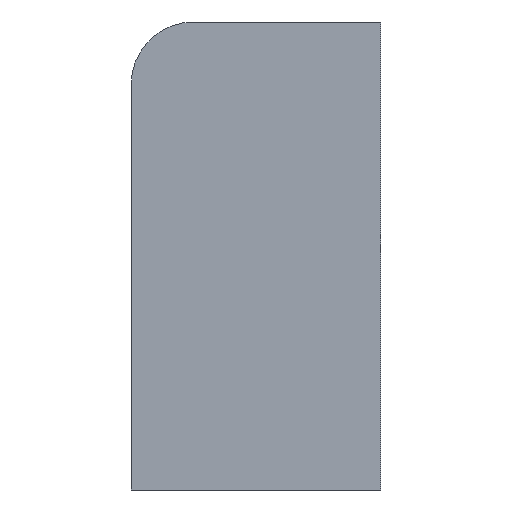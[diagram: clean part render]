
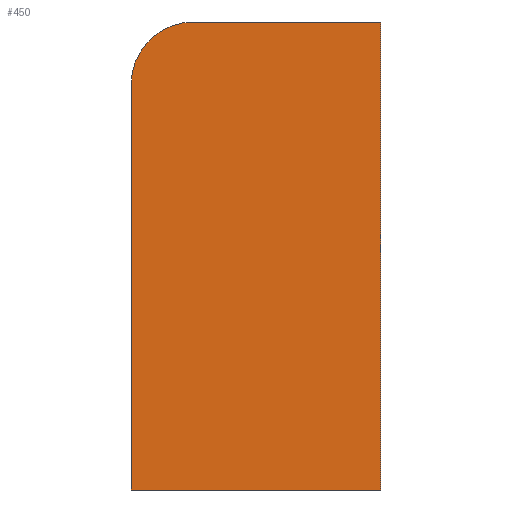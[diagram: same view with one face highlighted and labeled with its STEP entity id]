
A CAD part, left-side view. The second image highlights one B-rep face of the part: STEP entity #450.
In plain terms, the highlighted planar face has unit normal (-1, 0, 0).
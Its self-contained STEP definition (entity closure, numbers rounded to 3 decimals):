
#233=CARTESIAN_POINT('Vertex',(0.,0.,150.)) ;
#236=CARTESIAN_POINT('Line Origine',(0.,0.,75.)) ;
#240=CARTESIAN_POINT('Vertex',(0.,0.,0.)) ;
#329=CARTESIAN_POINT('Vertex',(0.,80.,0.)) ;
#332=CARTESIAN_POINT('Line Origine',(0.,80.,65.)) ;
#336=CARTESIAN_POINT('Vertex',(0.,80.,130.)) ;
#396=CARTESIAN_POINT('Line Origine',(0.,40.,0.)) ;
#414=CARTESIAN_POINT('Axis2P3D Location',(0.,60.,130.)) ;
#418=CARTESIAN_POINT('Vertex',(0.,60.,150.)) ;
#433=CARTESIAN_POINT('Axis2P3D Location',(0.,80.,0.)) ;
#438=CARTESIAN_POINT('Line Origine',(0.,30.,150.)) ;
#237=DIRECTION('Vector Direction',(0.,0.,1.)) ;
#333=DIRECTION('Vector Direction',(0.,0.,1.)) ;
#397=DIRECTION('Vector Direction',(0.,-1.,0.)) ;
#415=DIRECTION('Axis2P3D Direction',(-1.,0.,0.)) ;
#434=DIRECTION('Axis2P3D Direction',(-1.,0.,0.)) ;
#435=DIRECTION('Axis2P3D XDirection',(0.,-1.,0.)) ;
#439=DIRECTION('Vector Direction',(0.,1.,0.)) ;
#416=AXIS2_PLACEMENT_3D('Circle Axis2P3D',#414,#415,$) ;
#436=AXIS2_PLACEMENT_3D('Plane Axis2P3D',#433,#434,#435) ;
#444=ORIENTED_EDGE('',*,*,#242,.T.) ;
#445=ORIENTED_EDGE('',*,*,#442,.T.) ;
#446=ORIENTED_EDGE('',*,*,#420,.T.) ;
#447=ORIENTED_EDGE('',*,*,#338,.F.) ;
#448=ORIENTED_EDGE('',*,*,#400,.T.) ;
#238=VECTOR('Line Direction',#237,1.) ;
#334=VECTOR('Line Direction',#333,1.) ;
#398=VECTOR('Line Direction',#397,1.) ;
#440=VECTOR('Line Direction',#439,1.) ;
#450=ADVANCED_FACE('PartBody',(#449),#437,.T.) ;
#417=CIRCLE('generated circle',#416,20.) ;
#242=EDGE_CURVE('',#241,#234,#239,.T.) ;
#338=EDGE_CURVE('',#330,#337,#335,.T.) ;
#400=EDGE_CURVE('',#330,#241,#399,.T.) ;
#420=EDGE_CURVE('',#419,#337,#417,.T.) ;
#442=EDGE_CURVE('',#234,#419,#441,.T.) ;
#443=EDGE_LOOP('',(#444,#445,#446,#447,#448)) ;
#449=FACE_OUTER_BOUND('',#443,.T.) ;
#239=LINE('Line',#236,#238) ;
#335=LINE('Line',#332,#334) ;
#399=LINE('Line',#396,#398) ;
#441=LINE('Line',#438,#440) ;
#437=PLANE('',#436) ;
#234=VERTEX_POINT('',#233) ;
#241=VERTEX_POINT('',#240) ;
#330=VERTEX_POINT('',#329) ;
#337=VERTEX_POINT('',#336) ;
#419=VERTEX_POINT('',#418) ;
